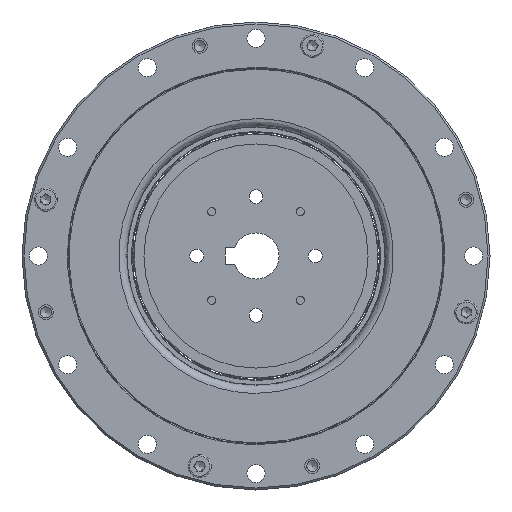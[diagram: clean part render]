
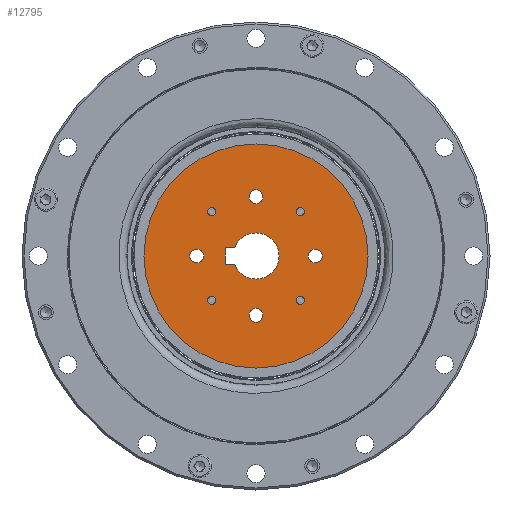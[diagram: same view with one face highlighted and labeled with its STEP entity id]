
A CAD part, left-side view. The second image highlights one B-rep face of the part: STEP entity #12795.
In plain terms, the highlighted planar face has unit normal (-1, 0, 0).
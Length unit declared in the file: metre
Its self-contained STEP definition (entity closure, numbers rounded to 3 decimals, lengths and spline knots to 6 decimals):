
#38 = CARTESIAN_POINT ( 'NONE',  ( -0.0101, -0.013435, -0.014685 ) ) ;
#275 = VERTEX_POINT ( 'NONE', #38 ) ;
#636 = CIRCLE ( 'NONE', #13585, 0.00125 ) ;
#1362 = AXIS2_PLACEMENT_3D ( 'NONE', #22360, #15055, #2648 ) ;
#1383 = DIRECTION ( 'NONE',  ( -1., 0., 0. ) ) ;
#1509 = ORIENTED_EDGE ( 'NONE', *, *, #6506, .F. ) ;
#1574 = CIRCLE ( 'NONE', #17496, 0.0021 ) ;
#1585 = EDGE_CURVE ( 'NONE', #2155, #2155, #19345, .T. ) ;
#1733 = DIRECTION ( 'NONE',  ( 0., 0., -1. ) ) ;
#1796 = VERTEX_POINT ( 'NONE', #13958 ) ;
#1980 = AXIS2_PLACEMENT_3D ( 'NONE', #11478, #9861, #11591 ) ;
#2131 = CARTESIAN_POINT ( 'NONE',  ( -0.0101, 0., -0.0201 ) ) ;
#2143 = EDGE_LOOP ( 'NONE', ( #2864 ) ) ;
#2155 = VERTEX_POINT ( 'NONE', #3654 ) ;
#2220 = EDGE_CURVE ( 'NONE', #21188, #12763, #14169, .T. ) ;
#2381 = DIRECTION ( 'NONE',  ( 0., 0., -1. ) ) ;
#2465 = DIRECTION ( 'NONE',  ( 0., 1., 0. ) ) ;
#2487 = DIRECTION ( 'NONE',  ( -1., 0., 0. ) ) ;
#2496 = CIRCLE ( 'NONE', #1362, 0.0021 ) ;
#2528 = FACE_BOUND ( 'NONE', #2143, .T. ) ;
#2648 = DIRECTION ( 'NONE',  ( 0., 0., -1. ) ) ;
#2864 = ORIENTED_EDGE ( 'NONE', *, *, #22741, .F. ) ;
#3107 = CARTESIAN_POINT ( 'NONE',  ( -0.0101, 0.0093, 0.0025 ) ) ;
#3654 = CARTESIAN_POINT ( 'NONE',  ( -0.0101, 0.013435, -0.014685 ) ) ;
#3808 = CIRCLE ( 'NONE', #10473, 0.0021 ) ;
#3830 = CIRCLE ( 'NONE', #1980, 0.0021 ) ;
#3962 = DIRECTION ( 'NONE',  ( 0., -1., 0. ) ) ;
#3976 = CIRCLE ( 'NONE', #7684, 0.034 ) ;
#4392 = DIRECTION ( 'NONE',  ( -1., 0., 0. ) ) ;
#4739 = CARTESIAN_POINT ( 'NONE',  ( -0.0101, 0.0093, -0.0025 ) ) ;
#4830 = CARTESIAN_POINT ( 'NONE',  ( -0.0101, -0.018, -0.0021 ) ) ;
#4893 = VECTOR ( 'NONE', #2465, 1. ) ;
#4922 = EDGE_LOOP ( 'NONE', ( #21540 ) ) ;
#4970 = EDGE_CURVE ( 'NONE', #12763, #12569, #14638, .T. ) ;
#4974 = DIRECTION ( 'NONE',  ( -1., 0., 0. ) ) ;
#5418 = DIRECTION ( 'NONE',  ( -1., 0., 0. ) ) ;
#5639 = AXIS2_PLACEMENT_3D ( 'NONE', #9972, #17044, #18688 ) ;
#5714 = CARTESIAN_POINT ( 'NONE',  ( -0.0101, 0., 0. ) ) ;
#5773 = FACE_BOUND ( 'NONE', #8902, .T. ) ;
#6228 = CARTESIAN_POINT ( 'NONE',  ( -0.0101, 0., -0.018 ) ) ;
#6258 = ORIENTED_EDGE ( 'NONE', *, *, #22189, .F. ) ;
#6506 = EDGE_CURVE ( 'NONE', #10826, #10826, #1574, .T. ) ;
#6561 = CARTESIAN_POINT ( 'NONE',  ( -0.0101, 0., 0.0159 ) ) ;
#6582 = DIRECTION ( 'NONE',  ( 0., 0., -1. ) ) ;
#6763 = EDGE_LOOP ( 'NONE', ( #19612 ) ) ;
#7069 = EDGE_CURVE ( 'NONE', #22875, #22875, #22910, .T. ) ;
#7320 = CARTESIAN_POINT ( 'NONE',  ( -0.0101, 0., -0.0025 ) ) ;
#7684 = AXIS2_PLACEMENT_3D ( 'NONE', #18959, #9808, #11534 ) ;
#7840 = PLANE ( 'NONE',  #13697 ) ;
#8002 = DIRECTION ( 'NONE',  ( 0., 0., -1. ) ) ;
#8021 = EDGE_CURVE ( 'NONE', #19626, #21188, #11158, .T. ) ;
#8228 = CARTESIAN_POINT ( 'NONE',  ( -0.0101, 0.0093, 0. ) ) ;
#8902 = EDGE_LOOP ( 'NONE', ( #1509 ) ) ;
#9191 = DIRECTION ( 'NONE',  ( -1., 0., 0. ) ) ;
#9597 = DIRECTION ( 'NONE',  ( 1., 0., 0. ) ) ;
#9610 = CARTESIAN_POINT ( 'NONE',  ( -0.0101, 0.006538, -0.0025 ) ) ;
#9808 = DIRECTION ( 'NONE',  ( 1., 0., 0. ) ) ;
#9861 = DIRECTION ( 'NONE',  ( -1., 0., 0. ) ) ;
#9972 = CARTESIAN_POINT ( 'NONE',  ( -0.0101, 0.013435, -0.013435 ) ) ;
#10194 = CARTESIAN_POINT ( 'NONE',  ( -0.0101, 0.013435, 0.013435 ) ) ;
#10309 = CARTESIAN_POINT ( 'NONE',  ( -0.0101, 0., 0.018 ) ) ;
#10473 = AXIS2_PLACEMENT_3D ( 'NONE', #10309, #1383, #1733 ) ;
#10826 = VERTEX_POINT ( 'NONE', #2131 ) ;
#10841 = ORIENTED_EDGE ( 'NONE', *, *, #14286, .F. ) ;
#10881 = CARTESIAN_POINT ( 'NONE',  ( -0.0101, 0.006538, 0.0025 ) ) ;
#10951 = CARTESIAN_POINT ( 'NONE',  ( -0.0101, -0.013435, -0.013435 ) ) ;
#11045 = DIRECTION ( 'NONE',  ( 0., 0., 1. ) ) ;
#11110 = FACE_BOUND ( 'NONE', #4922, .T. ) ;
#11158 = LINE ( 'NONE', #7320, #14420 ) ;
#11273 = CARTESIAN_POINT ( 'NONE',  ( -0.0101, 0., 0.0025 ) ) ;
#11478 = CARTESIAN_POINT ( 'NONE',  ( -0.0101, -0.018, 0. ) ) ;
#11534 = DIRECTION ( 'NONE',  ( 0., 0., 1. ) ) ;
#11591 = DIRECTION ( 'NONE',  ( 0., 0., -1. ) ) ;
#11616 = AXIS2_PLACEMENT_3D ( 'NONE', #16430, #5418, #16190 ) ;
#11985 = VECTOR ( 'NONE', #8002, 1. ) ;
#12121 = VERTEX_POINT ( 'NONE', #4830 ) ;
#12196 = ORIENTED_EDGE ( 'NONE', *, *, #14385, .F. ) ;
#12569 = VERTEX_POINT ( 'NONE', #3107 ) ;
#12763 = VERTEX_POINT ( 'NONE', #10881 ) ;
#12795 = ADVANCED_FACE ( 'NONE', ( #14921, #14704, #21766, #13180, #5773, #13070, #12841, #11110, #2528, #19815 ), #7840, .F. ) ;
#12841 = FACE_BOUND ( 'NONE', #22760, .T. ) ;
#13070 = FACE_BOUND ( 'NONE', #17996, .T. ) ;
#13180 = FACE_BOUND ( 'NONE', #13487, .T. ) ;
#13487 = EDGE_LOOP ( 'NONE', ( #14095 ) ) ;
#13531 = DIRECTION ( 'NONE',  ( 0., 0., -1. ) ) ;
#13585 = AXIS2_PLACEMENT_3D ( 'NONE', #10951, #2487, #2381 ) ;
#13697 = AXIS2_PLACEMENT_3D ( 'NONE', #16664, #9597, #21534 ) ;
#13958 = CARTESIAN_POINT ( 'NONE',  ( -0.0101, 0., 0.034 ) ) ;
#14095 = ORIENTED_EDGE ( 'NONE', *, *, #7069, .F. ) ;
#14169 = CIRCLE ( 'NONE', #16020, 0.007 ) ;
#14286 = EDGE_CURVE ( 'NONE', #12121, #12121, #3830, .T. ) ;
#14385 = EDGE_CURVE ( 'NONE', #19219, #19219, #3808, .T. ) ;
#14420 = VECTOR ( 'NONE', #3962, 1. ) ;
#14638 = LINE ( 'NONE', #11273, #4893 ) ;
#14704 = FACE_BOUND ( 'NONE', #20950, .T. ) ;
#14764 = AXIS2_PLACEMENT_3D ( 'NONE', #10194, #4974, #6582 ) ;
#14921 = FACE_OUTER_BOUND ( 'NONE', #19246, .T. ) ;
#14966 = EDGE_CURVE ( 'NONE', #22573, #22573, #17166, .T. ) ;
#15055 = DIRECTION ( 'NONE',  ( -1., 0., 0. ) ) ;
#15317 = EDGE_CURVE ( 'NONE', #12569, #19626, #22042, .T. ) ;
#15810 = CARTESIAN_POINT ( 'NONE',  ( -0.0101, 0.018, -0.0021 ) ) ;
#16020 = AXIS2_PLACEMENT_3D ( 'NONE', #5714, #9191, #11045 ) ;
#16190 = DIRECTION ( 'NONE',  ( 0., 0., -1. ) ) ;
#16430 = CARTESIAN_POINT ( 'NONE',  ( -0.0101, -0.013435, 0.013435 ) ) ;
#16664 = CARTESIAN_POINT ( 'NONE',  ( -0.0101, 0., 0. ) ) ;
#17044 = DIRECTION ( 'NONE',  ( -1., 0., 0. ) ) ;
#17166 = CIRCLE ( 'NONE', #11616, 0.00125 ) ;
#17496 = AXIS2_PLACEMENT_3D ( 'NONE', #6228, #4392, #13531 ) ;
#17571 = VERTEX_POINT ( 'NONE', #15810 ) ;
#17697 = EDGE_LOOP ( 'NONE', ( #6258 ) ) ;
#17996 = EDGE_LOOP ( 'NONE', ( #10841 ) ) ;
#18110 = ORIENTED_EDGE ( 'NONE', *, *, #8021, .F. ) ;
#18339 = ORIENTED_EDGE ( 'NONE', *, *, #2220, .F. ) ;
#18688 = DIRECTION ( 'NONE',  ( 0., 0., -1. ) ) ;
#18959 = CARTESIAN_POINT ( 'NONE',  ( -0.0101, 0., 0. ) ) ;
#19219 = VERTEX_POINT ( 'NONE', #6561 ) ;
#19246 = EDGE_LOOP ( 'NONE', ( #20445 ) ) ;
#19345 = CIRCLE ( 'NONE', #5639, 0.00125 ) ;
#19612 = ORIENTED_EDGE ( 'NONE', *, *, #14966, .F. ) ;
#19626 = VERTEX_POINT ( 'NONE', #4739 ) ;
#19642 = CARTESIAN_POINT ( 'NONE',  ( -0.0101, 0.013435, 0.012185 ) ) ;
#19815 = FACE_BOUND ( 'NONE', #6763, .T. ) ;
#20445 = ORIENTED_EDGE ( 'NONE', *, *, #22539, .F. ) ;
#20826 = CARTESIAN_POINT ( 'NONE',  ( -0.0101, -0.013435, 0.012185 ) ) ;
#20950 = EDGE_LOOP ( 'NONE', ( #22661, #18339, #18110, #22586 ) ) ;
#21188 = VERTEX_POINT ( 'NONE', #9610 ) ;
#21534 = DIRECTION ( 'NONE',  ( 0., 0., -1. ) ) ;
#21540 = ORIENTED_EDGE ( 'NONE', *, *, #1585, .F. ) ;
#21766 = FACE_BOUND ( 'NONE', #17697, .T. ) ;
#22042 = LINE ( 'NONE', #8228, #11985 ) ;
#22189 = EDGE_CURVE ( 'NONE', #17571, #17571, #2496, .T. ) ;
#22360 = CARTESIAN_POINT ( 'NONE',  ( -0.0101, 0.018, 0. ) ) ;
#22539 = EDGE_CURVE ( 'NONE', #1796, #1796, #3976, .T. ) ;
#22573 = VERTEX_POINT ( 'NONE', #20826 ) ;
#22586 = ORIENTED_EDGE ( 'NONE', *, *, #15317, .F. ) ;
#22661 = ORIENTED_EDGE ( 'NONE', *, *, #4970, .F. ) ;
#22741 = EDGE_CURVE ( 'NONE', #275, #275, #636, .T. ) ;
#22760 = EDGE_LOOP ( 'NONE', ( #12196 ) ) ;
#22875 = VERTEX_POINT ( 'NONE', #19642 ) ;
#22910 = CIRCLE ( 'NONE', #14764, 0.00125 ) ;
